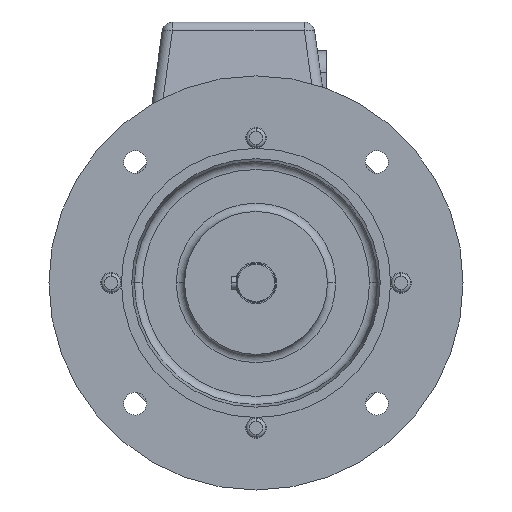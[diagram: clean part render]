
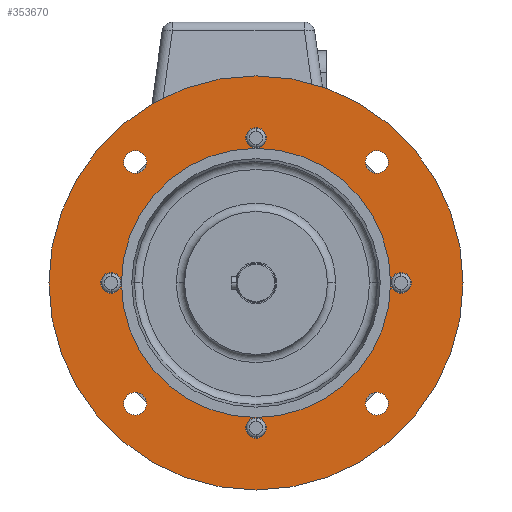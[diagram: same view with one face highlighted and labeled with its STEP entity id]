
A CAD part, left-side view. The second image highlights one B-rep face of the part: STEP entity #353670.
In plain terms, the highlighted planar face has unit normal (-1, 0, 0).
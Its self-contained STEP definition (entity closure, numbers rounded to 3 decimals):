
#334560=CARTESIAN_POINT('',(842.242,355.686,
56.494));
#334570=VERTEX_POINT('',#334560);
#334730=CARTESIAN_POINT('',(842.242,355.686,
46.494));
#334740=VERTEX_POINT('',#334730);
#334770=CARTESIAN_POINT('',(842.242,355.686,
51.494));
#334780=DIRECTION('',(-1.,0.,0.));
#334790=DIRECTION('',(0.,0.,-1.));
#334800=AXIS2_PLACEMENT_3D('',#334770,#334780,#334790);
#334810=CIRCLE('',#334800,5.);
#334820=CARTESIAN_POINT('',(842.242,360.686,
51.494));
#334830=VERTEX_POINT('',#334820);
#334840=EDGE_CURVE('',#334830,#334740,#334810,.T.);
#334860=EDGE_CURVE('',#334570,#334830,#334810,.T.);
#341840=CARTESIAN_POINT('',(842.242,430.686,
121.494));
#341850=VERTEX_POINT('',#341840);
#342010=CARTESIAN_POINT('',(842.242,420.686,
121.494));
#342020=VERTEX_POINT('',#342010);
#342050=CARTESIAN_POINT('',(842.242,425.686,
121.494));
#342060=DIRECTION('',(-1.,0.,0.));
#342070=DIRECTION('',(0.,-1.,0.));
#342080=AXIS2_PLACEMENT_3D('',#342050,#342060,#342070);
#342090=CIRCLE('',#342080,5.);
#342100=CARTESIAN_POINT('',(842.242,425.686,
116.494));
#342110=VERTEX_POINT('',#342100);
#342120=EDGE_CURVE('',#342110,#342020,#342090,.T.);
#342140=EDGE_CURVE('',#341850,#342110,#342090,.T.);
#350850=CARTESIAN_POINT('',(842.242,425.686,
51.494));
#350860=DIRECTION('',(1.,0.,0.));
#350870=DIRECTION('',(0.,1.,0.));
#350880=AXIS2_PLACEMENT_3D('',#350850,#350860,#350870);
#350890=CIRCLE('',#350880,65.);
#350900=CARTESIAN_POINT('',(842.242,425.686,
-13.506));
#350910=VERTEX_POINT('',#350900);
#350920=EDGE_CURVE('',#334830,#350910,#350890,.T.);
#350940=CARTESIAN_POINT('',(842.242,490.686,
51.494));
#350950=VERTEX_POINT('',#350940);
#350960=EDGE_CURVE('',#350910,#350950,#350890,.T.);
#351980=CARTESIAN_POINT('',(842.242,495.686,
46.494));
#351990=VERTEX_POINT('',#351980);
#352150=CARTESIAN_POINT('',(842.242,495.686,
56.494));
#352160=VERTEX_POINT('',#352150);
#352190=CARTESIAN_POINT('',(842.242,495.686,
51.494));
#352200=DIRECTION('',(-1.,0.,0.));
#352210=DIRECTION('',(0.,0.,1.));
#352220=AXIS2_PLACEMENT_3D('',#352190,#352200,#352210);
#352230=CIRCLE('',#352220,5.);
#352240=EDGE_CURVE('',#350950,#352160,#352230,.T.);
#352260=EDGE_CURVE('',#351990,#350950,#352230,.T.);
#352520=CARTESIAN_POINT('',(842.242,508.186,
51.494));
#352530=DIRECTION('',(-1.,0.,0.));
#352540=DIRECTION('',(0.,1.,0.));
#352550=AXIS2_PLACEMENT_3D('',#352520,#352530,#352540);
#352560=PLANE('',#352550);
#352570=CARTESIAN_POINT('',(842.242,425.686,
51.494));
#352580=DIRECTION('',(-1.,0.,0.));
#352590=DIRECTION('',(0.,1.,0.));
#352600=AXIS2_PLACEMENT_3D('',#352570,#352580,#352590);
#352610=CIRCLE('',#352600,100.);
#352620=CARTESIAN_POINT('',(842.242,525.686,
51.494));
#352630=VERTEX_POINT('',#352620);
#352640=CARTESIAN_POINT('',(842.242,325.686,
51.494));
#352650=VERTEX_POINT('',#352640);
#352660=EDGE_CURVE('',#352630,#352650,#352610,.T.);
#352670=ORIENTED_EDGE('',*,*,#352660,.T.);
#352680=EDGE_CURVE('',#352650,#352630,#352610,.T.);
#352690=ORIENTED_EDGE('',*,*,#352680,.T.);
#352700=EDGE_LOOP('',(#352690,#352670));
#352710=FACE_OUTER_BOUND('',#352700,.T.);
#352720=CARTESIAN_POINT('',(842.242,425.686,
-18.506));
#352730=DIRECTION('',(-1.,0.,0.));
#352740=DIRECTION('',(0.,1.,0.));
#352750=AXIS2_PLACEMENT_3D('',#352720,#352730,#352740);
#352760=CIRCLE('',#352750,5.);
#352770=CARTESIAN_POINT('',(842.242,430.686,
-18.506));
#352780=VERTEX_POINT('',#352770);
#352790=EDGE_CURVE('',#350910,#352780,#352760,.T.);
#352800=ORIENTED_EDGE('',*,*,#352790,.F.);
#352810=CARTESIAN_POINT('',(842.242,420.686,
-18.506));
#352820=VERTEX_POINT('',#352810);
#352830=EDGE_CURVE('',#352780,#352820,#352760,.T.);
#352840=ORIENTED_EDGE('',*,*,#352830,.F.);
#352850=EDGE_CURVE('',#352820,#350910,#352760,.T.);
#352860=ORIENTED_EDGE('',*,*,#352850,.F.);
#352870=ORIENTED_EDGE('',*,*,#350920,.T.);
#352880=ORIENTED_EDGE('',*,*,#334840,.F.);
#352890=EDGE_CURVE('',#334740,#334570,#334810,.T.);
#352900=ORIENTED_EDGE('',*,*,#352890,.F.);
#352910=ORIENTED_EDGE('',*,*,#334860,.F.);
#352920=EDGE_CURVE('',#342110,#334830,#350890,.T.);
#352930=ORIENTED_EDGE('',*,*,#352920,.T.);
#352940=ORIENTED_EDGE('',*,*,#342120,.F.);
#352950=EDGE_CURVE('',#342020,#341850,#342090,.T.);
#352960=ORIENTED_EDGE('',*,*,#352950,.F.);
#352970=ORIENTED_EDGE('',*,*,#342140,.F.);
#352980=EDGE_CURVE('',#350950,#342110,#350890,.T.);
#352990=ORIENTED_EDGE('',*,*,#352980,.T.);
#353000=ORIENTED_EDGE('',*,*,#352240,.F.);
#353010=EDGE_CURVE('',#352160,#351990,#352230,.T.);
#353020=ORIENTED_EDGE('',*,*,#353010,.F.);
#353030=ORIENTED_EDGE('',*,*,#352260,.F.);
#353040=ORIENTED_EDGE('',*,*,#350960,.T.);
#353050=EDGE_LOOP('',(#353040,#353030,#353020,#353000,#352990,#352970,
#352960,#352940,#352930,#352910,#352900,#352880,#352870,#352860,#352840,
#352800));
#353060=FACE_BOUND('',#353050,.T.);
#353070=CARTESIAN_POINT('',(842.242,367.349,
109.83));
#353080=DIRECTION('',(1.,0.,0.));
#353090=DIRECTION('',(0.,0.,1.));
#353100=AXIS2_PLACEMENT_3D('',#353070,#353080,#353090);
#353110=CIRCLE('',#353100,5.5);
#353120=CARTESIAN_POINT('',(842.242,367.349,
115.33));
#353130=VERTEX_POINT('',#353120);
#353140=CARTESIAN_POINT('',(842.242,367.349,
104.33));
#353150=VERTEX_POINT('',#353140);
#353160=EDGE_CURVE('',#353130,#353150,#353110,.T.);
#353170=ORIENTED_EDGE('',*,*,#353160,.T.);
#353180=EDGE_CURVE('',#353150,#353130,#353110,.T.);
#353190=ORIENTED_EDGE('',*,*,#353180,.T.);
#353200=EDGE_LOOP('',(#353190,#353170));
#353210=FACE_BOUND('',#353200,.T.);
#353220=CARTESIAN_POINT('',(842.242,484.022,
-6.843));
#353230=DIRECTION('',(1.,0.,0.));
#353240=DIRECTION('',(0.,0.,-1.));
#353250=AXIS2_PLACEMENT_3D('',#353220,#353230,#353240);
#353260=CIRCLE('',#353250,5.5);
#353270=CARTESIAN_POINT('',(842.242,484.022,
-12.343));
#353280=VERTEX_POINT('',#353270);
#353290=CARTESIAN_POINT('',(842.242,484.022,
-1.343));
#353300=VERTEX_POINT('',#353290);
#353310=EDGE_CURVE('',#353280,#353300,#353260,.T.);
#353320=ORIENTED_EDGE('',*,*,#353310,.T.);
#353330=EDGE_CURVE('',#353300,#353280,#353260,.T.);
#353340=ORIENTED_EDGE('',*,*,#353330,.T.);
#353350=EDGE_LOOP('',(#353340,#353320));
#353360=FACE_BOUND('',#353350,.T.);
#353370=CARTESIAN_POINT('',(842.242,484.022,
109.83));
#353380=DIRECTION('',(-1.,0.,0.));
#353390=DIRECTION('',(0.,0.,1.));
#353400=AXIS2_PLACEMENT_3D('',#353370,#353380,#353390);
#353410=CIRCLE('',#353400,5.5);
#353420=CARTESIAN_POINT('',(842.242,484.022,
115.33));
#353430=VERTEX_POINT('',#353420);
#353440=CARTESIAN_POINT('',(842.242,484.022,
104.33));
#353450=VERTEX_POINT('',#353440);
#353460=EDGE_CURVE('',#353430,#353450,#353410,.T.);
#353470=ORIENTED_EDGE('',*,*,#353460,.F.);
#353480=EDGE_CURVE('',#353450,#353430,#353410,.T.);
#353490=ORIENTED_EDGE('',*,*,#353480,.F.);
#353500=EDGE_LOOP('',(#353490,#353470));
#353510=FACE_BOUND('',#353500,.T.);
#353520=CARTESIAN_POINT('',(842.242,367.349,
-6.843));
#353530=DIRECTION('',(-1.,0.,0.));
#353540=DIRECTION('',(0.,0.,-1.));
#353550=AXIS2_PLACEMENT_3D('',#353520,#353530,#353540);
#353560=CIRCLE('',#353550,5.5);
#353570=CARTESIAN_POINT('',(842.242,367.349,
-12.343));
#353580=VERTEX_POINT('',#353570);
#353590=CARTESIAN_POINT('',(842.242,367.349,
-1.343));
#353600=VERTEX_POINT('',#353590);
#353610=EDGE_CURVE('',#353580,#353600,#353560,.T.);
#353620=ORIENTED_EDGE('',*,*,#353610,.F.);
#353630=EDGE_CURVE('',#353600,#353580,#353560,.T.);
#353640=ORIENTED_EDGE('',*,*,#353630,.F.);
#353650=EDGE_LOOP('',(#353640,#353620));
#353660=FACE_BOUND('',#353650,.T.);
#353670=ADVANCED_FACE('',(#352710,#353060,#353210,#353360,#353510,
#353660),#352560,.T.);
